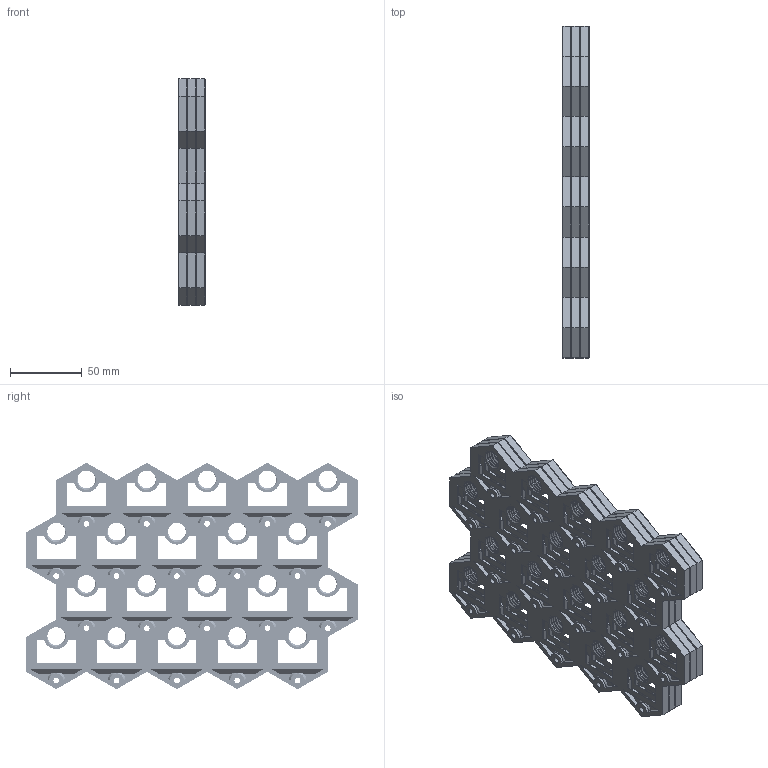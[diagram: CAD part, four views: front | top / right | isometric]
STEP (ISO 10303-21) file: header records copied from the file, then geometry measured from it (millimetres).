
FILE_DESCRIPTION(/* description */ ('','CAx-IF Rec.Pracs.---Representation and Presentation of Product Manufacturing Information (PMI)---4.0---2014-10-13'),/* implementation_level */ '2;1');
FILE_NAME(/* name */ 'GOEWS 4x5 Tile Stack with 0.2 Gaps.step',/* time_stamp */ '2024-11-29T15:32:42-05:00',/* author */ (''),/* organization */ (''),/* preprocessor_version */ 'ST-DEVELOPER v20',/* originating_system */ 'Autodesk Translation Framework v13.20.0.188',/* authorisation */ '');
FILE_SCHEMA (('AP242_MANAGED_MODEL_BASED_3D_ENGINEERING_MIM_LF { 1 0 10303 442 1 1 4 }'));
Products named in the file (1): GOEWS Parametric Tile Stack with Gaps
Bounding box: 18.4 x 231 x 157.62 mm (x, y, z)
Volume: 274968.5 mm3; surface area: 207521.7 mm2
Topology: 3 solids, 3 shells, 3165 faces, 8697 edges, 5598 vertices
Faces by surface type: plane 2145, cylinder 720, cone 180, bspline 120
Full cylindrical faces by diameter (mm): 4 x60, 8 x60, 12.322 x120, 14.55 x120
Entity records: 169382 total; most frequent: CARTESIAN_POINT 91261, ORIENTED_EDGE 17394, DIRECTION 14189, EDGE_CURVE 8697, LINE 6177, VECTOR 6177, VERTEX_POINT 5598, AXIS2_PLACEMENT_3D 4006
